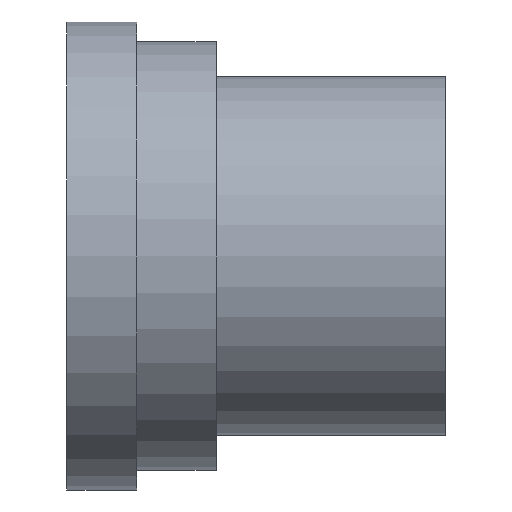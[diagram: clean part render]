
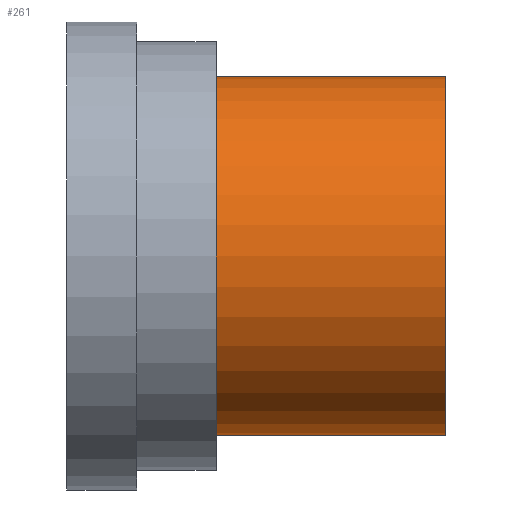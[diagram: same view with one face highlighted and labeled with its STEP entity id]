
A CAD part, left-side view. The second image highlights one B-rep face of the part: STEP entity #261.
In plain terms, the highlighted cylindrical face has radius 9 mm (diameter 18 mm), a partial arc.
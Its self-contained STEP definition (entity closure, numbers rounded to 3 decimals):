
#220=CARTESIAN_POINT('',(-14.,5.75,0.));
#221=DIRECTION('',(0.0,-1.0,0.));
#222=DIRECTION('',(0.0,0.0,-1.0));
#223=AXIS2_PLACEMENT_3D('',#220,#221,#222);
#224=CYLINDRICAL_SURFACE('',#223,9.0);
#225=CARTESIAN_POINT('',(-14.,0.,-9.0));
#226=VERTEX_POINT('',#225);
#227=CARTESIAN_POINT('',(-14.,11.5,-9.));
#228=VERTEX_POINT('',#227);
#229=CARTESIAN_POINT('',(-14.,0.,-9.0));
#230=DIRECTION('',(0.0,1.0,0.0));
#231=VECTOR('',#230,11.5);
#232=LINE('',#229,#231);
#233=EDGE_CURVE('',#226,#228,#232,.T.);
#234=ORIENTED_EDGE('',*,*,#233,.F.);
#235=CARTESIAN_POINT('',(-14.,0.,9.0));
#236=VERTEX_POINT('',#235);
#237=CARTESIAN_POINT('',(-14.,0.0,0.0));
#238=DIRECTION('',(0.0,-1.0,0.0));
#239=DIRECTION('',(0.0,0.0,-1.0));
#240=AXIS2_PLACEMENT_3D('',#237,#238,#239);
#241=CIRCLE('',#240,9.0);
#242=EDGE_CURVE('',#236,#226,#241,.T.);
#243=ORIENTED_EDGE('',*,*,#242,.F.);
#244=CARTESIAN_POINT('',(-14.,11.5,9.));
#245=VERTEX_POINT('',#244);
#246=CARTESIAN_POINT('',(-14.,0.,9.0));
#247=DIRECTION('',(0.0,1.0,0.0));
#248=VECTOR('',#247,11.5);
#249=LINE('',#246,#248);
#250=EDGE_CURVE('',#236,#245,#249,.T.);
#251=ORIENTED_EDGE('',*,*,#250,.T.);
#252=CARTESIAN_POINT('',(-14.,11.5,0.));
#253=DIRECTION('',(0.0,-1.0,0.0));
#254=DIRECTION('',(0.0,0.0,-1.0));
#255=AXIS2_PLACEMENT_3D('',#252,#253,#254);
#256=CIRCLE('',#255,9.0);
#257=EDGE_CURVE('',#245,#228,#256,.T.);
#258=ORIENTED_EDGE('',*,*,#257,.T.);
#259=EDGE_LOOP('',(#234,#243,#251,#258));
#260=FACE_OUTER_BOUND('',#259,.T.);
#261=ADVANCED_FACE('',(#260),#224,.T.);
